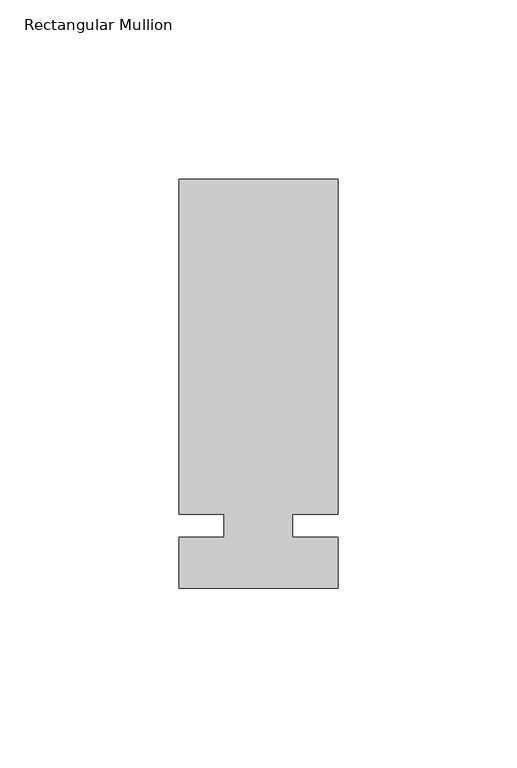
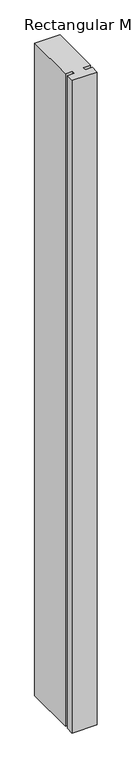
"""IFC4 building model written with IfcOpenShell, lengths in millimetres: member geometry, Rectangular Mullion : Kawneer-TRIFAB_VG_450_BACK_SB_Horizontal."""

from ifc_helpers import new_model, si_unit, frame, origin, place, context, project, spatial, polyline, outline, extrude, source, transform, mapped, element, save


def rectangular_mullion_32e07c27(model_context):
    return source(origin(), model_context, "Body", "SweptSolid", [
        extrude(outline(polyline([(26.5594027, -17.4625), (-17.8905973, -17.4625), (-17.8905973, -3.2050658), (-5.1905973, -3.2050658), (-5.1905973, 3.1449342), (-17.8905973, 3.1449342), (-17.8905973, 96.8375), (26.5594027, 96.8375), (26.5594027, 3.1449342), (13.8576322, 3.1449342), (13.8576322, -3.2050658), (26.5594027, -3.2050658), (26.5594027, -17.4625)])), frame((0.0, 0.0, -1219.7559074), z_axis=(0.0, 0.0, 1.0), x_axis=(1.0, 0.0, 0.0)), (0.0, 0.0, 1.0), 1219.7559074),
    ])


if __name__ == "__main__":
    model = new_model("IFC4")
    model_context = context("Model", 3, world=origin())
    ifc_project = project(units=[si_unit("LENGTHUNIT", "METRE", prefix="MILLI")], contexts=[model_context])
    site = spatial("IfcSite", under=ifc_project)
    building = spatial("IfcBuilding", under=site)
    placement = place(None, origin())
    rectangular_mullion_shape = rectangular_mullion_32e07c27(model_context)
    element("IfcMember", 1, ObjectType="Rectangular Mullion : Kawneer-TRIFAB_VG_450_BACK_SB_Horizontal", at=placement, inside=building, context=model_context, shape_type="MappedRepresentation", body=[
        mapped(rectangular_mullion_shape, transform((0.0, 0.0, 0.0), x_axis=(1.0, 0.0, 0.0), y_axis=(0.0, 1.0, 0.0), z_axis=(0.0, 0.0, 1.0))),
    ])
    save(model, "model.ifc")
